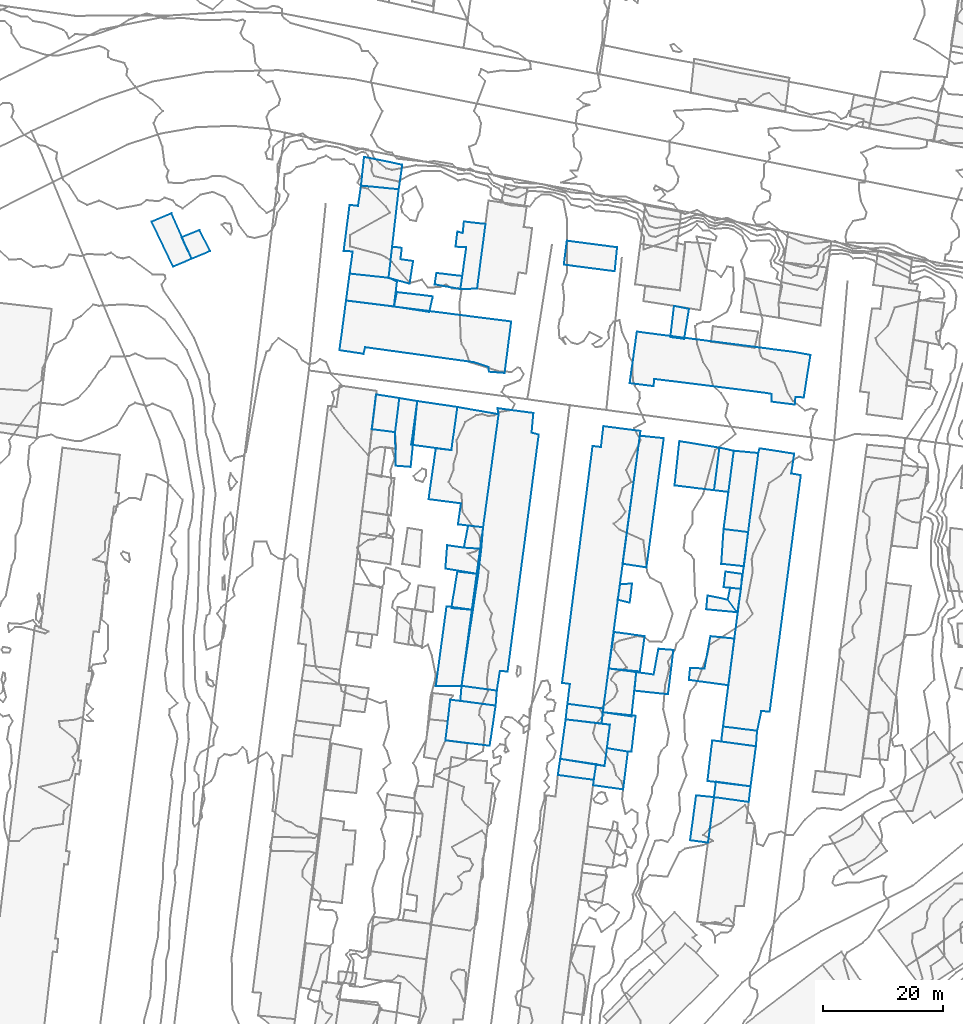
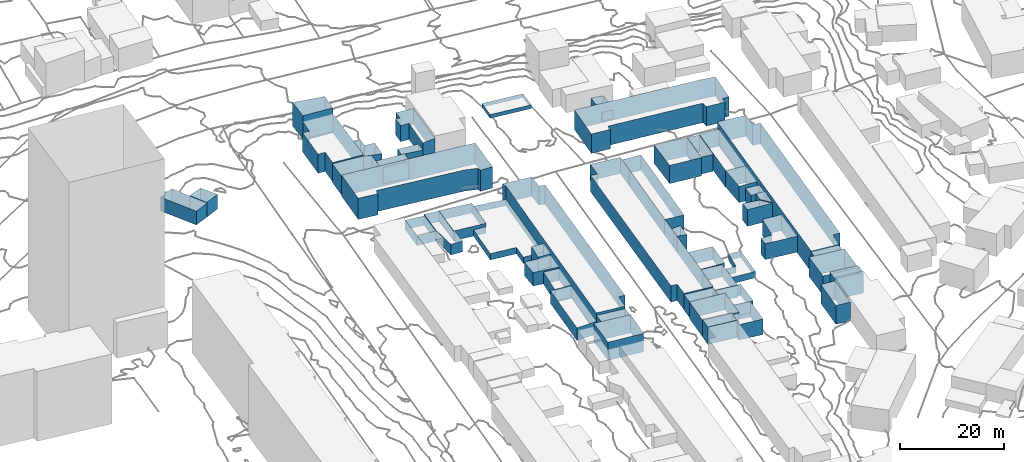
# Not in any storey, part 61 of 419: 48 walls.
"""IFC2X3 model written with IfcOpenShell, lengths in metres."""

import ifcopenshell
import ifcopenshell.guid

model = None  # the IFC model being written
_history = None  # IfcOwnerHistory: only IFC2X3 demands one
_inside = {}  # id of a spatial element -> (the spatial element, [elements in it])
_under = {}  # id of a project, library or spatial element -> (it, [spatial elements below it])
_declared = {}  # id of a project -> (the project, [libraries it declares])
_typed = {}  # id of a type object -> (the type object, [elements of that type])
_made_of = {}  # id of a material, layer set ... -> (it, [elements and type objects made of it])


def new_model(schema):
    """Start an empty IFC model of exactly this schema.

    Asked for "IFC4X3", IfcOpenShell would pick the latest addendum, in which some entities
    have other attributes; the version numbers below select the first issue.
    IFC2X3 requires an IfcOwnerHistory on every rooted entity: one is made here for all.
    """
    global model, _history
    if schema == "IFC4X3":
        model = ifcopenshell.file(schema_version=(4, 3, 0, 0))
    else:
        model = ifcopenshell.file(schema=schema)
    _inside.clear()
    _under.clear()
    _declared.clear()
    _typed.clear()
    _made_of.clear()
    _history = None
    if model.schema == "IFC2X3":
        org = make("IfcOrganization", Name="unknown")
        user = make(
            "IfcPersonAndOrganization",
            ThePerson=make("IfcPerson", FamilyName="unknown"),
            TheOrganization=org,
        )
        app = make(
            "IfcApplication",
            ApplicationDeveloper=org,
            Version="unknown",
            ApplicationFullName="unknown",
            ApplicationIdentifier="unknown",
        )
        _history = make(
            "IfcOwnerHistory",
            OwningUser=user,
            OwningApplication=app,
            ChangeAction="ADDED",
            CreationDate=0,
        )
    return model


def make(cls, **values):
    """One entity of the class cls with the attributes given. An attribute that is None is left unset."""
    return model.create_entity(
        cls, **{name: value for name, value in values.items() if value is not None}
    )


def rooted(cls, **values):
    """An entity with a GlobalId (a new one), such as an element, a storey or a relation."""
    return make(cls, GlobalId=ifcopenshell.guid.new(), OwnerHistory=_history, **values)


def si_unit(unit_type, name, prefix=None):
    """IfcSIUnit, for example si_unit("LENGTHUNIT", "METRE", prefix="MILLI")."""
    return make("IfcSIUnit", UnitType=unit_type, Prefix=prefix, Name=name)


def assignment(units):
    """IfcUnitAssignment: the units of a project."""
    return None if units is None else make("IfcUnitAssignment", Units=units)


def point(xyz):
    """IfcCartesianPoint."""
    return None if xyz is None else make("IfcCartesianPoint", Coordinates=xyz)


def direction(xyz):
    """IfcDirection."""
    return None if xyz is None else make("IfcDirection", DirectionRatios=xyz)


def frame(location, z_axis=None, x_axis=None):
    """IfcAxis2Placement3D, a coordinate frame: its origin and axes. An axis left out is left unset."""
    return make(
        "IfcAxis2Placement3D",
        Location=point(location),
        Axis=direction(z_axis),
        RefDirection=direction(x_axis),
    )


def origin_with_axes():
    """The frame at (0, 0, 0) with the z axis (0, 0, 1) and the x axis (1, 0, 0) written out."""
    return frame((0.0, 0.0, 0.0), z_axis=(0.0, 0.0, 1.0), x_axis=(1.0, 0.0, 0.0))


def place(relative_to, where):
    """IfcLocalPlacement: puts the frame where relative to a parent placement (None: the world)."""
    return make(
        "IfcLocalPlacement", PlacementRelTo=relative_to, RelativePlacement=where
    )


def context(
    kind, dimensions, precision=None, world=None, true_north=None, identifier=None
):
    """IfcGeometricRepresentationContext, for example the 3D "Model" context."""
    return make(
        "IfcGeometricRepresentationContext",
        ContextIdentifier=identifier,
        ContextType=kind,
        CoordinateSpaceDimension=dimensions,
        Precision=precision,
        WorldCoordinateSystem=world,
        TrueNorth=true_north,
    )


def subcontext(parent, identifier, kind, view, scale=None):
    """IfcGeometricRepresentationSubContext, for example "Body" below "Model"."""
    return make(
        "IfcGeometricRepresentationSubContext",
        ContextIdentifier=identifier,
        ContextType=kind,
        ParentContext=parent,
        TargetScale=scale,
        TargetView=view,
    )


def project(units=None, contexts=None):
    """IfcProject with its units and contexts."""
    return rooted(
        "IfcProject",
        Name="project",
        RepresentationContexts=contexts,
        UnitsInContext=assignment(units),
    )


def faces_of(points, faces, orient=None, outer=None):
    """IfcFace entities. A face is a list of loops; a loop is a list of indices into points, from 0.

    orient and outer hold one flag for each loop. By default every Orientation is true, the
    first loop of a face is its IfcFaceOuterBound and the others are IfcFaceBound.
    """
    made = []
    for i, loops in enumerate(faces):
        bounds = []
        for j, loop in enumerate(loops):
            is_outer = j == 0 if outer is None else outer[i][j]
            bounds.append(
                make(
                    "IfcFaceOuterBound" if is_outer else "IfcFaceBound",
                    Bound=make("IfcPolyLoop", Polygon=[points[k] for k in loop]),
                    Orientation=True if orient is None else orient[i][j],
                )
            )
        made.append(make("IfcFace", Bounds=bounds))
    return made


def faceted_brep(points, faces, orient=None, outer=None, voids=None):
    """IfcFacetedBrep: a solid bounded by flat faces; with voids (closed shells), ...WithVoids."""
    shared = [point(p) for p in points]
    hull = make("IfcClosedShell", CfsFaces=faces_of(shared, faces, orient, outer))
    if voids is None:
        return make("IfcFacetedBrep", Outer=hull)
    return make(
        "IfcFacetedBrepWithVoids",
        Outer=hull,
        Voids=[
            make(cls, CfsFaces=faces_of(shared, fs, o, b)) for cls, fs, o, b in voids
        ],
    )


def shape(context_of_items, identifier, shape_type, items):
    """IfcShapeRepresentation: the items that make up one representation, for example the "Body"."""
    return make(
        "IfcShapeRepresentation",
        ContextOfItems=context_of_items,
        RepresentationIdentifier=identifier,
        RepresentationType=shape_type,
        Items=items,
    )


def made_of(thing, what):
    """Note that an element or type object is made of a material, layer set ...; save() writes the relation."""
    if what is not None:
        _made_of.setdefault(what.id(), (what, []))[1].append(thing)
    return thing


def element(
    cls,
    number,
    at=None,
    inside=None,
    cuts=None,
    type_object=None,
    material=None,
    context=None,
    identifier="Body",
    shape_type=None,
    held_by="IfcProductDefinitionShape",
    body=None,
    shapes=None,
    **own,
):
    """One element of the class cls, such as IfcWall. Its Tag is "e" and its number.

    at: its placement. inside: the storey or other place that contains it. cuts: it is an
    opening in that element (IfcRelVoidsElement). A single representation is given by context,
    identifier, shape_type and body (its items); several are given by shapes. held_by: the class
    of the entity that holds the representations. save() writes the other relations.
    """
    e = rooted(cls, Tag="e%d" % number, ObjectPlacement=at, **own)
    if body is not None:
        shapes = [shape(context, identifier, shape_type, body)]
    if shapes is not None:
        e.Representation = make(held_by, Representations=shapes)
    if inside is not None:
        _inside.setdefault(inside.id(), (inside, []))[1].append(e)
    if cuts is not None:
        rooted(
            "IfcRelVoidsElement", RelatingBuildingElement=cuts, RelatedOpeningElement=e
        )
    if type_object is not None:
        _typed.setdefault(type_object.id(), (type_object, []))[1].append(e)
    return made_of(e, material)


def aggregate(whole, parts):
    """IfcRelAggregates: a whole, such as a stair, and the parts it consists of."""
    return rooted("IfcRelAggregates", RelatingObject=whole, RelatedObjects=parts)


def save(model, path):
    """Write the relations noted so far, then the file.

    IfcRelAggregates (storeys below a building ...), IfcRelContainedInSpatialStructure (elements
    in a storey), IfcRelDefinesByType, IfcRelAssociatesMaterial and IfcRelDeclares: one each for
    every whole, place, type object, material and project.
    """
    for whole, parts in _under.values():
        aggregate(whole, parts)
    for where, things in _inside.values():
        rooted(
            "IfcRelContainedInSpatialStructure",
            RelatedElements=things,
            RelatingStructure=where,
        )
    for kind, things in _typed.values():
        rooted("IfcRelDefinesByType", RelatedObjects=things, RelatingType=kind)
    for what, things in _made_of.values():
        rooted("IfcRelAssociatesMaterial", RelatedObjects=things, RelatingMaterial=what)
    for by, libraries in _declared.values():
        rooted("IfcRelDeclares", RelatingContext=by, RelatedDefinitions=libraries)
    model.write(path)


model = new_model("IFC2X3")

# Units and contexts
model_context = context("Model", 3, precision=1e-05, world=origin_with_axes())
body_context = subcontext(model_context, "Body", "Model", "MODEL_VIEW")
ifc_project = project(units=[si_unit("AREAUNIT", "SQUARE_METRE"), si_unit("LENGTHUNIT", "METRE")], contexts=[model_context])

# Walls
wall_1_placement = place(None, frame((536.0920204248, 752.4976909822, 39.0440010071), z_axis=(0.0, 0.0, 1.0), x_axis=(1.0, 0.0, 0.0)))
element("IfcWall", 1, at=wall_1_placement, Name="Mur 0", context=body_context, shape_type="Brep", body=[
    faceted_brep([(5.0, -4.6999999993, 2.6559989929), (4.4, -4.6999999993, 2.6559989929), (5.0, -4.6999999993, 0.0), (4.4, -4.6999999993, 0.0), (5.7, 1.3000000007, 2.6559989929), (5.7, 1.3000000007, 0.0), (0.2, 1.9000000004, 2.6559989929), (0.2, 1.9000000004, 0.0), (0.0, 0.0, 2.6559989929), (0.0, 0.0, 0.0), (1.4, -0.1999999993, 2.6559989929), (1.4, -0.1999999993, 0.0), (0.9, -4.0999999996, 2.6559989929), (0.9, -4.0999999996, 0.0)], [[[0, 1, 2]], [[2, 1, 3]], [[4, 0, 5]], [[5, 0, 2]], [[6, 4, 7]], [[7, 4, 5]], [[8, 6, 9]], [[9, 6, 7]], [[10, 8, 11]], [[11, 8, 9]], [[1, 12, 3]], [[3, 12, 13]], [[12, 10, 13]], [[13, 10, 11]]]),
])
wall_2_placement = place(None, frame((536.2920204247, 754.3976909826, 38.9300006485), z_axis=(0.0, 0.0, 1.0), x_axis=(1.0, 0.0, 0.0)))
element("IfcWall", 2, at=wall_2_placement, Name="Mur 0", context=body_context, shape_type="Brep", body=[
    faceted_brep([(5.6000000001, 6.7000000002, 2.8699993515), (4.8, -0.7000000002, 2.8699993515), (5.6000000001, 6.7000000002, 0.0), (4.8, -0.7000000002, 0.0), (1.0, 7.2999999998, 2.8699993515), (1.0, 7.2999999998, 0.0), (0.0, 0.0, 2.8699993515), (0.0, 0.0, 0.0)], [[[0, 1, 2]], [[2, 1, 3]], [[4, 0, 5]], [[5, 0, 2]], [[1, 6, 3]], [[3, 6, 7]], [[6, 4, 7]], [[7, 4, 5]]]),
])
wall_3_placement = place(None, frame((537.2920204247, 761.6976909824, 38.8383990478), z_axis=(0.0, 0.0, 1.0), x_axis=(1.0, 0.0, 0.0)))
element("IfcWall", 3, at=wall_3_placement, Name="Mur 0", context=body_context, shape_type="Brep", body=[
    faceted_brep([(5.2000000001, -0.5, 3.0616009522), (0.0, 0.0, 3.0616009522), (5.2000000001, -0.5, 0.0), (0.0, 0.0, 0.0), (6.0, 5.4000000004, 3.0616009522), (6.0, 5.4000000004, 0.0), (0.9, 6.1000000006, 3.0616009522), (0.9, 6.1000000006, 0.0)], [[[0, 1, 2]], [[2, 1, 3]], [[4, 0, 5]], [[5, 0, 2]], [[1, 6, 3]], [[3, 6, 7]], [[6, 4, 7]], [[7, 4, 5]]]),
])
wall_4_placement = place(None, frame((500.4920204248, 826.9976909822, 37.8899995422), z_axis=(0.0, 0.0, 1.0), x_axis=(1.0, 0.0, 0.0)))
element("IfcWall", 4, at=wall_4_placement, Name="Mur 0", context=body_context, shape_type="Brep", body=[
    faceted_brep([(3.5, -1.0, 3.8100004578), (0.0, 0.0, 3.8100004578), (3.5, -1.0, 0.0), (0.0, 0.0, 0.0), (4.1, 2.8000000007, 3.8100004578), (4.1, 2.8000000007, 0.0), (2.0, 3.1000000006, 3.8100004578), (2.0, 3.1000000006, 0.0), (2.2, 5.0, 3.8100004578), (2.2, 5.0, 0.0), (0.6, 5.2000000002, 3.8100004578), (0.6, 5.2000000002, 0.0)], [[[0, 1, 2]], [[2, 1, 3]], [[4, 0, 5]], [[5, 0, 2]], [[6, 4, 7]], [[7, 4, 5]], [[8, 6, 9]], [[9, 6, 7]], [[1, 10, 3]], [[3, 10, 11]], [[10, 8, 11]], [[11, 8, 9]]]),
])
wall_5_placement = place(None, frame((547.5920204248, 817.0976909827, 39.4159999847), z_axis=(0.0, 0.0, 1.0), x_axis=(1.0, 0.0, 0.0)))
element("IfcWall", 5, at=wall_5_placement, Name="Mur 0", context=body_context, shape_type="Brep", body=[
    faceted_brep([(2.3, -0.2999999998, 2.0840000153), (0.0, 0.0, 2.0840000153), (2.3, -0.2999999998, 0.0), (0.0, 0.0, 0.0), (3.1, 4.7000000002, 2.0840000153), (3.1, 4.7000000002, 0.0), (0.6, 5.2000000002, 2.0840000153), (0.6, 5.2000000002, 0.0)], [[[0, 1, 2]], [[2, 1, 3]], [[4, 0, 5]], [[5, 0, 2]], [[1, 6, 3]], [[3, 6, 7]], [[6, 4, 7]], [[7, 4, 5]]]),
])
wall_6_placement = place(None, frame((511.6920204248, 832.1976909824, 38.0406999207), z_axis=(0.0, 0.0, 1.0), x_axis=(1.0, 0.0, 0.0)))
element("IfcWall", 6, at=wall_6_placement, Name="Mur 0", context=body_context, shape_type="Brep", body=[
    faceted_brep([(1.4, 4.2000000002, 3.7593000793), (5.0, 3.7999999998, 3.7593000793), (1.4, 4.2000000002, 0.0), (5.0, 3.7999999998, 0.0), (1.2000000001, 2.2999999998, 3.7593000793), (1.2000000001, 2.2999999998, 0.0), (0.3, 2.5, 3.7593000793), (0.3, 2.5, 0.0), (0.0, 0.0, 3.7593000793), (0.0, 0.0, 0.0), (1.8, -0.0999999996, 3.7593000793), (1.8, -0.0999999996, 0.0), (0.8, -7.0999999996, 3.7593000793), (0.8, -7.0999999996, 0.0), (3.6, -7.0, 3.7593000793), (3.6, -7.0, 0.0)], [[[0, 1, 2]], [[2, 1, 3]], [[4, 0, 5]], [[5, 0, 2]], [[6, 4, 7]], [[7, 4, 5]], [[8, 6, 9]], [[9, 6, 7]], [[10, 8, 11]], [[11, 8, 9]], [[12, 10, 13]], [[13, 10, 11]], [[1, 14, 3]], [[3, 14, 15]], [[14, 12, 15]], [[15, 12, 13]]]),
])
wall_7_placement = place(None, frame((492.9920204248, 831.4976909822, 37.6191995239), z_axis=(0.0, 0.0, 1.0), x_axis=(1.0, 0.0, 0.0)))
element("IfcWall", 7, at=wall_7_placement, Name="Mur 0", context=body_context, shape_type="Brep", body=[
    faceted_brep([(9.2, 10.3000000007, 4.4808004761), (7.5, -4.5, 4.4808004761), (9.2, 10.3000000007, 0.0), (7.5, -4.5, 0.0), (2.9, 10.9000000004, 4.4808004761), (2.9, 10.9000000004, 0.0), (2.4, 7.5, 4.4808004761), (2.4, 7.5, 0.0), (1.0, 7.7000000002, 4.4808004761), (1.0, 7.7000000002, 0.0), (0.0, 0.0, 4.4808004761), (0.0, 0.0, 0.0), (1.5, -0.0999999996, 4.4808004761), (1.5, -0.0999999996, 0.0), (1.0, -3.7999999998, 4.4808004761), (1.0, -3.7999999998, 0.0)], [[[0, 1, 2]], [[2, 1, 3]], [[4, 0, 5]], [[5, 0, 2]], [[6, 4, 7]], [[7, 4, 5]], [[8, 6, 9]], [[9, 6, 7]], [[10, 8, 11]], [[11, 8, 9]], [[12, 10, 13]], [[13, 10, 11]], [[1, 14, 3]], [[3, 14, 15]], [[14, 12, 15]], [[15, 12, 13]]]),
])
wall_8_placement = place(None, frame((534.6920204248, 742.1976909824, 38.0832015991), z_axis=(0.0, 0.0, 1.0), x_axis=(1.0, 0.0, 0.0)))
element("IfcWall", 8, at=wall_8_placement, Name="Mur 0", context=body_context, shape_type="Brep", body=[
    faceted_brep([(0.0, 0.0, 3.6167984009), (0.1, 0.9000000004, 3.6167984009), (0.0, 0.0, 0.0), (0.1, 0.9000000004, 0.0), (5.0, -0.7000000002, 3.6167984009), (5.0, -0.7000000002, 0.0), (5.8, 5.6000000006, 3.6167984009), (5.8, 5.6000000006, 0.0), (2.3, 6.2000000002, 3.6167984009), (2.3, 6.2000000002, 0.0), (1.9, 3.2000000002, 3.6167984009), (1.9, 3.2000000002, 0.0), (0.5, 3.5, 3.6167984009), (0.5, 3.5, 0.0)], [[[0, 1, 2]], [[2, 1, 3]], [[4, 0, 5]], [[5, 0, 2]], [[6, 4, 7]], [[7, 4, 5]], [[8, 6, 9]], [[9, 6, 7]], [[10, 8, 11]], [[11, 8, 9]], [[1, 12, 3]], [[3, 12, 13]], [[12, 10, 13]], [[13, 10, 11]]]),
])
wall_9_placement = place(None, frame((553.7920204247, 742.8976909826, 41.4479988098), z_axis=(0.0, 0.0, 1.0), x_axis=(1.0, 0.0, 0.0)))
element("IfcWall", 9, at=wall_9_placement, Name="Mur 0", context=body_context, shape_type="Brep", body=[
    faceted_brep([(0.8, 6.7999999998, 4.5520011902), (8.1000000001, 5.7999999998, 4.5520011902), (0.8, 6.7999999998, 0.0), (8.1000000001, 5.7999999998, 0.0), (0.0, 0.0, 4.5520011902), (0.0, 0.0, 0.0), (7.2000000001, -0.9000000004, 4.5520011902), (7.2000000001, -0.9000000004, 0.0)], [[[0, 1, 2]], [[2, 1, 3]], [[4, 0, 5]], [[5, 0, 2]], [[1, 6, 3]], [[3, 6, 7]], [[6, 4, 7]], [[7, 4, 5]]]),
])
wall_10_placement = place(None, frame((550.8920204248, 732.9976909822, 41.685300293), z_axis=(0.0, 0.0, 1.0), x_axis=(1.0, 0.0, 0.0)))
element("IfcWall", 10, at=wall_10_placement, Name="Mur 0", context=body_context, shape_type="Brep", body=[
    faceted_brep([(1.0, 7.5, 4.414699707), (4.0, 7.2000000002, 4.414699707), (1.0, 7.5, 0.0), (4.0, 7.2000000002, 0.0), (0.0, 0.0, 4.414699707), (0.0, 0.0, 0.0), (3.0, -0.3999999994, 4.414699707), (3.0, -0.3999999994, 0.0)], [[[0, 1, 2]], [[2, 1, 3]], [[4, 0, 5]], [[5, 0, 2]], [[1, 6, 3]], [[3, 6, 7]], [[6, 4, 7]], [[7, 4, 5]]]),
])
wall_11_placement = place(None, frame((538.7920204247, 773.1976909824, 38.4532003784), z_axis=(0.0, 0.0, 1.0), x_axis=(1.0, 0.0, 0.0)))
element("IfcWall", 11, at=wall_11_placement, Name="Mur 0", context=body_context, shape_type="Brep", body=[
    faceted_brep([(0.0, 0.0, 3.7467996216), (0.4, 2.6000000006, 3.7467996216), (0.0, 0.0, 0.0), (0.4, 2.6000000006, 0.0), (2.0, -0.5, 3.7467996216), (2.0, -0.5, 0.0), (2.4, 2.7000000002, 3.7467996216), (2.4, 2.7000000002, 0.0)], [[[0, 1, 2]], [[2, 1, 3]], [[4, 0, 5]], [[5, 0, 2]], [[1, 6, 3]], [[3, 6, 7]], [[6, 4, 7]], [[7, 4, 5]]]),
])
wall_12_placement = place(None, frame((556.0920204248, 749.4976909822, 41.3992001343), z_axis=(0.0, 0.0, 1.0), x_axis=(1.0, 0.0, 0.0)))
element("IfcWall", 12, at=wall_12_placement, Name="Mur 0", context=body_context, shape_type="Brep", body=[
    faceted_brep([(0.3, 2.5, 3.8007998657), (6.0, 1.8000000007, 3.8007998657), (0.3, 2.5, 0.0), (6.0, 1.8000000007, 0.0), (0.0, 0.0, 3.8007998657), (0.0, 0.0, 0.0), (5.8, -0.7999999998, 3.8007998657), (5.8, -0.7999999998, 0.0)], [[[0, 1, 2]], [[2, 1, 3]], [[4, 0, 5]], [[5, 0, 2]], [[1, 6, 3]], [[3, 6, 7]], [[6, 4, 7]], [[7, 4, 5]]]),
])
wall_13_placement = place(None, frame((508.3920204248, 758.7976909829, 37.1160003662), z_axis=(0.0, 0.0, 1.0), x_axis=(1.0, 0.0, 0.0)))
element("IfcWall", 13, at=wall_13_placement, Name="Mur 0", context=body_context, shape_type="Brep", body=[
    faceted_brep([(6.2, 12.6999999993, 2.9839996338), (4.2999999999, 0.0, 2.9839996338), (6.2, 12.6999999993, 0.0), (4.2999999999, 0.0, 0.0), (1.7999999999, 13.2999999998, 2.9839996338), (1.7999999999, 13.2999999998, 0.0), (0.0, 0.0, 2.9839996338), (0.0, 0.0, 0.0)], [[[0, 1, 2]], [[2, 1, 3]], [[4, 0, 5]], [[5, 0, 2]], [[1, 6, 3]], [[3, 6, 7]], [[6, 4, 7]], [[7, 4, 5]]]),
])
wall_14_placement = place(None, frame((512.4920204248, 756.2976909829, 37.5744013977), z_axis=(0.0, 0.0, 1.0), x_axis=(1.0, 0.0, 0.0)))
element("IfcWall", 14, at=wall_14_placement, Name="Mur 0", context=body_context, shape_type="Brep", body=[
    faceted_brep([(0.0, 0.0, 3.9255986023), (0.2, 2.5, 3.9255986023), (0.0, 0.0, 0.0), (0.2, 2.5, 0.0), (5.9, -0.8000000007, 3.9255986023), (5.9, -0.8000000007, 0.0), (6.1, 1.6999999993, 3.9255986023), (6.1, 1.6999999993, 0.0)], [[[0, 1, 2]], [[2, 1, 3]], [[4, 0, 5]], [[5, 0, 2]], [[1, 6, 3]], [[3, 6, 7]], [[6, 4, 7]], [[7, 4, 5]]]),
])
wall_15_placement = place(None, frame((507.1920204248, 789.9976909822, 37.4983999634), z_axis=(0.0, 0.0, 1.0), x_axis=(1.0, 0.0, 0.0)))
element("IfcWall", 15, at=wall_15_placement, Name="Mur 0", context=body_context, shape_type="Brep", body=[
    faceted_brep([(3.8, 8.2000000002, 1.5016000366), (4.8, 15.4000000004, 1.5016000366), (3.8, 8.2000000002, 0.0), (4.8, 15.4000000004, 0.0), (1.2000000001, 8.5, 1.5016000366), (1.2000000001, 8.5, 0.0), (0.0, 0.0, 1.5016000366), (0.0, 0.0, 0.0), (5.4, -0.6999999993, 1.5016000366), (5.4, -0.6999999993, 0.0), (4.9, -4.1999999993, 1.5016000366), (4.9, -4.1999999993, 0.0), (9.1, -4.6999999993, 1.5016000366), (9.1, -4.6999999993, 0.0), (11.7000000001, 14.2000000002, 1.5016000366), (11.7000000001, 14.2000000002, 0.0)], [[[0, 1, 2]], [[2, 1, 3]], [[4, 0, 5]], [[5, 0, 2]], [[6, 4, 7]], [[7, 4, 5]], [[8, 6, 9]], [[9, 6, 7]], [[10, 8, 11]], [[11, 8, 9]], [[12, 10, 13]], [[13, 10, 11]], [[1, 14, 3]], [[3, 14, 15]], [[14, 12, 15]], [[15, 12, 13]]]),
])
wall_16_placement = place(None, frame((513.0920204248, 781.8976909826, 37.9384004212), z_axis=(0.0, 0.0, 1.0), x_axis=(1.0, 0.0, 0.0)))
element("IfcWall", 16, at=wall_16_placement, Name="Mur 0", context=body_context, shape_type="Brep", body=[
    faceted_brep([(0.0, 0.0, 3.0615995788), (0.7, 3.7000000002, 3.0615995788), (0.0, 0.0, 0.0), (0.7, 3.7000000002, 0.0), (2.9, -0.2000000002, 3.0615995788), (2.9, -0.2000000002, 0.0), (3.2, 3.4000000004, 3.0615995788), (3.2, 3.4000000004, 0.0)], [[[0, 1, 2]], [[2, 1, 3]], [[4, 0, 5]], [[5, 0, 2]], [[1, 6, 3]], [[3, 6, 7]], [[6, 4, 7]], [[7, 4, 5]]]),
])
wall_17_placement = place(None, frame((556.4920204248, 775.2976909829, 40.5619991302), z_axis=(0.0, 0.0, 1.0), x_axis=(1.0, 0.0, 0.0)))
element("IfcWall", 17, at=wall_17_placement, Name="Mur 0", context=body_context, shape_type="Brep", body=[
    faceted_brep([(0.2999999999, 2.5999999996, 3.7380008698), (3.1, 2.1999999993, 3.7380008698), (0.2999999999, 2.5999999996, 0.0), (3.1, 2.1999999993, 0.0), (0.0, 0.0, 3.7380008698), (0.0, 0.0, 0.0), (2.9, -0.3000000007, 3.7380008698), (2.9, -0.3000000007, 0.0)], [[[0, 1, 2]], [[2, 1, 3]], [[4, 0, 5]], [[5, 0, 2]], [[1, 6, 3]], [[3, 6, 7]], [[6, 4, 7]], [[7, 4, 5]]]),
])
wall_18_placement = place(None, frame((556.4920204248, 784.9976909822, 40.2458000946), z_axis=(0.0, 0.0, 1.0), x_axis=(1.0, 0.0, 0.0)))
element("IfcWall", 18, at=wall_18_placement, Name="Mur 0", context=body_context, shape_type="Brep", body=[
    faceted_brep([(0.0, 0.0, 3.9541999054), (1.7, 13.1000000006, 3.9541999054), (0.0, 0.0, 0.0), (1.7, 13.1000000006, 0.0), (4.1, -0.5, 3.9541999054), (4.1, -0.5, 0.0), (5.7999999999, 12.7000000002, 3.9541999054), (5.7999999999, 12.7000000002, 0.0)], [[[0, 1, 2]], [[2, 1, 3]], [[4, 0, 5]], [[5, 0, 2]], [[1, 6, 3]], [[3, 6, 7]], [[6, 4, 7]], [[7, 4, 5]]]),
])
wall_19_placement = place(None, frame((556.0920204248, 779.1976909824, 40.3780010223), z_axis=(0.0, 0.0, 1.0), x_axis=(1.0, 0.0, 0.0)))
element("IfcWall", 19, at=wall_19_placement, Name="Mur 0", context=body_context, shape_type="Brep", body=[
    faceted_brep([(0.0, 0.0, 3.8219989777), (0.4, 5.7999999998, 3.8219989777), (0.0, 0.0, 0.0), (0.4, 5.7999999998, 0.0), (3.8, -0.3999999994, 3.8219989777), (3.8, -0.3999999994, 0.0), (4.5, 5.2999999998, 3.8219989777), (4.5, 5.2999999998, 0.0)], [[[0, 1, 2]], [[2, 1, 3]], [[4, 0, 5]], [[5, 0, 2]], [[1, 6, 3]], [[3, 6, 7]], [[6, 4, 7]], [[7, 4, 5]]]),
])
wall_20_placement = place(None, frame((495.8920204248, 842.3976909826, 37.9790008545), z_axis=(0.0, 0.0, 1.0), x_axis=(1.0, 0.0, 0.0)))
element("IfcWall", 20, at=wall_20_placement, Name="Mur 0", context=body_context, shape_type="Brep", body=[
    faceted_brep([(0.0, 0.0, 5.5209991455), (0.5, 4.7999999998, 5.5209991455), (0.0, 0.0, 0.0), (0.5, 4.7999999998, 0.0), (6.2999999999, -0.5999999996, 5.5209991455), (6.2999999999, -0.5999999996, 0.0), (6.8999999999, 3.5, 5.5209991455), (6.8999999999, 3.5, 0.0)], [[[0, 1, 2]], [[2, 1, 3]], [[4, 0, 5]], [[5, 0, 2]], [[1, 6, 3]], [[3, 6, 7]], [[6, 4, 7]], [[7, 4, 5]]]),
])
wall_21_placement = place(None, frame((497.6920204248, 801.6976909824, 37.1106988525), z_axis=(0.0, 0.0, 1.0), x_axis=(1.0, 0.0, 0.0)))
element("IfcWall", 21, at=wall_21_placement, Name="Mur 0", context=body_context, shape_type="Brep", body=[
    faceted_brep([(0.0, 0.0, 2.1893011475), (0.7000000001, 5.7999999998, 2.1893011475), (0.0, 0.0, 0.0), (0.7000000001, 5.7999999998, 0.0), (3.9, -0.5, 2.1893011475), (3.9, -0.5, 0.0), (4.6, 5.2000000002, 2.1893011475), (4.6, 5.2000000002, 0.0)], [[[0, 1, 2]], [[2, 1, 3]], [[4, 0, 5]], [[5, 0, 2]], [[1, 6, 3]], [[3, 6, 7]], [[6, 4, 7]], [[7, 4, 5]]]),
])
wall_22_placement = place(None, frame((501.3920204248, 822.1976909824, 37.6935987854), z_axis=(0.0, 0.0, 1.0), x_axis=(1.0, 0.0, 0.0)))
element("IfcWall", 22, at=wall_22_placement, Name="Mur 0", context=body_context, shape_type="Brep", body=[
    faceted_brep([(5.8999999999, -0.8999999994, 3.9064012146), (0.0, 0.0, 3.9064012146), (5.8999999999, -0.8999999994, 0.0), (0.0, 0.0, 0.0), (6.5, 1.7000000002, 3.9064012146), (6.5, 1.7000000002, 0.0), (0.5, 2.4000000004, 3.9064012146), (0.5, 2.4000000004, 0.0)], [[[0, 1, 2]], [[2, 1, 3]], [[4, 0, 5]], [[5, 0, 2]], [[1, 6, 3]], [[3, 6, 7]], [[6, 4, 7]], [[7, 4, 5]]]),
])
wall_23_placement = place(None, frame((501.5920204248, 801.1976909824, 37.1959991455), z_axis=(0.0, 0.0, 1.0), x_axis=(1.0, 0.0, 0.0)))
element("IfcWall", 23, at=wall_23_placement, Name="Mur 0", context=body_context, shape_type="Brep", body=[
    faceted_brep([(0.0, 0.0, 2.5040008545), (0.7, 5.7000000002, 2.5040008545), (0.0, 0.0, 0.0), (0.7, 5.7000000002, 0.0), (0.1, -5.5999999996, 2.5040008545), (0.1, -5.5999999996, 0.0), (2.6, -5.7999999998, 2.5040008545), (2.6, -5.7999999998, 0.0), (3.7, 5.2000000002, 2.5040008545), (3.7, 5.2000000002, 0.0)], [[[0, 1, 2]], [[2, 1, 3]], [[4, 0, 5]], [[5, 0, 2]], [[6, 4, 7]], [[7, 4, 5]], [[1, 8, 3]], [[3, 8, 9]], [[8, 6, 9]], [[9, 6, 7]]]),
])
wall_24_placement = place(None, frame((539.5920204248, 779.1976909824, 38.5800003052), z_axis=(0.0, 0.0, 1.0), x_axis=(1.0, 0.0, 0.0)))
element("IfcWall", 24, at=wall_24_placement, Name="Mur 0", context=body_context, shape_type="Brep", body=[
    faceted_brep([(0.0, 0.0, 3.6199996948), (2.9, 21.4000000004, 3.6199996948), (0.0, 0.0, 0.0), (2.9, 21.4000000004, 0.0), (4.0, -0.5999999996, 3.6199996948), (4.0, -0.5999999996, 0.0), (6.9, 21.0, 3.6199996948), (6.9, 21.0, 0.0)], [[[0, 1, 2]], [[2, 1, 3]], [[4, 0, 5]], [[5, 0, 2]], [[1, 6, 3]], [[3, 6, 7]], [[6, 4, 7]], [[7, 4, 5]]]),
])
wall_25_placement = place(None, frame((554.8920204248, 740.1976909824, 41.7104003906), z_axis=(0.0, 0.0, 1.0), x_axis=(1.0, 0.0, 0.0)))
element("IfcWall", 25, at=wall_25_placement, Name="Mur 0", context=body_context, shape_type="Brep", body=[
    faceted_brep([(0.2999999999, 2.6000000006, 4.7895996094), (6.1, 1.7999999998, 4.7895996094), (0.2999999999, 2.6000000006, 0.0), (6.1, 1.7999999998, 0.0), (0.0, 0.0, 4.7895996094), (0.0, 0.0, 0.0), (5.7999999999, -0.7999999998, 4.7895996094), (5.7999999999, -0.7999999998, 0.0)], [[[0, 1, 2]], [[2, 1, 3]], [[4, 0, 5]], [[5, 0, 2]], [[1, 6, 3]], [[3, 6, 7]], [[6, 4, 7]], [[7, 4, 5]]]),
])
wall_26_placement = place(None, frame((512.6920204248, 758.7976909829, 37.5744013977), z_axis=(0.0, 0.0, 1.0), x_axis=(1.0, 0.0, 0.0)))
element("IfcWall", 26, at=wall_26_placement, Name="Mur 0", context=body_context, shape_type="Brep", body=[
    faceted_brep([(0.0, 0.0, 4.5255986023), (3.6, 26.5, 4.5255986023), (0.0, 0.0, 0.0), (3.6, 26.5, 0.0), (5.9, -0.8000000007, 4.5255986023), (5.9, -0.8000000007, 0.0), (6.4, 2.5, 4.5255986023), (6.4, 2.5, 0.0), (7.7000000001, 2.3999999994, 4.5255986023), (7.7000000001, 2.3999999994, 0.0), (12.9, 42.0, 4.5255986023), (12.9, 42.0, 0.0), (11.7000000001, 42.2999999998, 4.5255986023), (11.7000000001, 42.2999999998, 0.0), (12.0, 45.5999999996, 4.5255986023), (12.0, 45.5999999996, 0.0), (6.0, 46.3999999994, 4.5255986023), (6.0, 46.3999999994, 0.0), (6.2000000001, 45.3999999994, 4.5255986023), (6.2000000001, 45.3999999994, 0.0)], [[[0, 1, 2]], [[2, 1, 3]], [[4, 0, 5]], [[5, 0, 2]], [[6, 4, 7]], [[7, 4, 5]], [[8, 6, 9]], [[9, 6, 7]], [[10, 8, 11]], [[11, 8, 9]], [[12, 10, 13]], [[13, 10, 11]], [[14, 12, 15]], [[15, 12, 13]], [[16, 14, 17]], [[17, 14, 15]], [[1, 18, 3]], [[3, 18, 19]], [[18, 16, 19]], [[19, 16, 17]]]),
])
wall_27_placement = place(None, frame((530.0920204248, 753.1976909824, 38.3579986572), z_axis=(0.0, 0.0, 1.0), x_axis=(1.0, 0.0, 0.0)))
element("IfcWall", 27, at=wall_27_placement, Name="Mur 0", context=body_context, shape_type="Brep", body=[
    faceted_brep([(6.0, -0.7000000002, 3.6420013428), (0.0, 0.0, 3.6420013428), (6.0, -0.7000000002, 0.0), (0.0, 0.0, 0.0), (6.3, 1.7999999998, 3.6420013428), (6.3, 1.7999999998, 0.0), (0.3, 2.6000000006, 3.6420013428), (0.3, 2.6000000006, 0.0)], [[[0, 1, 2]], [[2, 1, 3]], [[4, 0, 5]], [[5, 0, 2]], [[1, 6, 3]], [[3, 6, 7]], [[6, 4, 7]], [[7, 4, 5]]]),
])
wall_28_placement = place(None, frame((529.1920204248, 746.5976909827, 38.0880004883), z_axis=(0.0, 0.0, 1.0), x_axis=(1.0, 0.0, 0.0)))
element("IfcWall", 28, at=wall_28_placement, Name="Mur 0", context=body_context, shape_type="Brep", body=[
    faceted_brep([(7.4, -1.2000000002, 3.9119995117), (0.0, 0.0, 3.9119995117), (7.4, -1.2000000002, 0.0), (0.0, 0.0, 0.0), (8.3, 5.7000000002, 3.9119995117), (8.3, 5.7000000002, 0.0), (0.9, 6.5999999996, 3.9119995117), (0.9, 6.5999999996, 0.0)], [[[0, 1, 2]], [[2, 1, 3]], [[4, 0, 5]], [[5, 0, 2]], [[1, 6, 3]], [[3, 6, 7]], [[6, 4, 7]], [[7, 4, 5]]]),
])
wall_29_placement = place(None, frame((557.1920204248, 773.1976909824, 40.6828004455), z_axis=(0.0, 0.0, 1.0), x_axis=(1.0, 0.0, 0.0)))
element("IfcWall", 29, at=wall_29_placement, Name="Mur 0", context=body_context, shape_type="Brep", body=[
    faceted_brep([(2.2000000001, 1.7999999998, 3.7171995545), (1.6, -2.0999999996, 3.7171995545), (2.2000000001, 1.7999999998, 0.0), (1.6, -2.0999999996, 0.0), (0.4, 2.0, 3.7171995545), (0.4, 2.0, 0.0), (0.0, 0.0, 3.7171995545), (0.0, 0.0, 0.0)], [[[0, 1, 2]], [[2, 1, 3]], [[4, 0, 5]], [[5, 0, 2]], [[1, 6, 3]], [[3, 6, 7]], [[6, 4, 7]], [[7, 4, 5]]]),
])
wall_30_placement = place(None, frame((510.9920204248, 771.7976909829, 37.4740007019), z_axis=(0.0, 0.0, 1.0), x_axis=(1.0, 0.0, 0.0)))
element("IfcWall", 30, at=wall_30_placement, Name="Mur 0", context=body_context, shape_type="Brep", body=[
    faceted_brep([(4.5, 5.6999999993, 2.8259992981), (3.6, -0.3000000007, 2.8259992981), (4.5, 5.6999999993, 0.0), (3.6, -0.3000000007, 0.0), (1.0, 6.0999999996, 2.8259992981), (1.0, 6.0999999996, 0.0), (0.0, 0.0, 2.8259992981), (0.0, 0.0, 0.0)], [[[0, 1, 2]], [[2, 1, 3]], [[4, 0, 5]], [[5, 0, 2]], [[1, 6, 3]], [[3, 6, 7]], [[6, 4, 7]], [[7, 4, 5]]]),
])
wall_31_placement = place(None, frame((553.5920204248, 771.5976909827, 40.2979999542), z_axis=(0.0, 0.0, 1.0), x_axis=(1.0, 0.0, 0.0)))
element("IfcWall", 31, at=wall_31_placement, Name="Mur 0", context=body_context, shape_type="Brep", body=[
    faceted_brep([(3.6, 1.5999999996, 3.9020000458), (5.2, -0.5, 3.9020000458), (3.6, 1.5999999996, 0.0), (5.2, -0.5, 0.0), (0.2, 2.2999999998, 3.9020000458), (0.2, 2.2999999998, 0.0), (0.0, 0.0, 3.9020000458), (0.0, 0.0, 0.0)], [[[0, 1, 2]], [[2, 1, 3]], [[4, 0, 5]], [[5, 0, 2]], [[1, 6, 3]], [[3, 6, 7]], [[6, 4, 7]], [[7, 4, 5]]]),
])
wall_32_placement = place(None, frame((508.1920204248, 825.8976909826, 37.9969993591), z_axis=(0.0, 0.0, 1.0), x_axis=(1.0, 0.0, 0.0)))
element("IfcWall", 32, at=wall_32_placement, Name="Mur 0", context=body_context, shape_type="Brep", body=[
    faceted_brep([(4.6, 1.4000000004, 2.1030006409), (4.3, -0.7999999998, 2.1030006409), (4.6, 1.4000000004, 0.0), (4.3, -0.7999999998, 0.0), (0.3, 1.9000000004, 2.1030006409), (0.3, 1.9000000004, 0.0), (0.0, 0.0, 2.1030006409), (0.0, 0.0, 0.0)], [[[0, 1, 2]], [[2, 1, 3]], [[4, 0, 5]], [[5, 0, 2]], [[1, 6, 3]], [[3, 6, 7]], [[6, 4, 7]], [[7, 4, 5]]]),
])
wall_33_placement = place(None, frame((509.9920204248, 778.3976909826, 37.4320007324), z_axis=(0.0, 0.0, 1.0), x_axis=(1.0, 0.0, 0.0)))
element("IfcWall", 33, at=wall_33_placement, Name="Mur 0", context=body_context, shape_type="Brep", body=[
    faceted_brep([(0.2999999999, 3.9000000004, 3.1679992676), (3.1, 3.5, 3.1679992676), (0.2999999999, 3.9000000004, 0.0), (3.1, 3.5, 0.0), (0.0, 0.0, 3.1679992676), (0.0, 0.0, 0.0), (5.5, -0.9000000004, 3.1679992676), (5.5, -0.9000000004, 0.0), (6.0, 3.2999999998, 3.1679992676), (6.0, 3.2999999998, 0.0)], [[[0, 1, 2]], [[2, 1, 3]], [[4, 0, 5]], [[5, 0, 2]], [[6, 4, 7]], [[7, 4, 5]], [[1, 8, 3]], [[3, 8, 9]], [[8, 6, 9]], [[9, 6, 7]]]),
])
wall_34_placement = place(None, frame((529.7920204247, 829.1976909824, 39.0116003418), z_axis=(0.0, 0.0, 1.0), x_axis=(1.0, 0.0, 0.0)))
element("IfcWall", 34, at=wall_34_placement, Name="Mur 0", context=body_context, shape_type="Brep", body=[
    faceted_brep([(0.5, 4.0, 0.8883996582), (8.9, 2.9000000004, 0.8883996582), (0.5, 4.0, 0.0), (8.9, 2.9000000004, 0.0), (0.0, 0.0, 0.8883996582), (0.0, 0.0, 0.0), (8.5, -1.0999999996, 0.8883996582), (8.5, -1.0999999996, 0.0)], [[[0, 1, 2]], [[2, 1, 3]], [[4, 0, 5]], [[5, 0, 2]], [[1, 6, 3]], [[3, 6, 7]], [[6, 4, 7]], [[7, 4, 5]]]),
])
wall_35_placement = place(None, frame((509.9920204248, 749.6976909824, 37.4170002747), z_axis=(0.0, 0.0, 1.0), x_axis=(1.0, 0.0, 0.0)))
element("IfcWall", 35, at=wall_35_placement, Name="Mur 0", context=body_context, shape_type="Brep", body=[
    faceted_brep([(0.0, 0.0, 4.2829997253), (0.4, 3.2000000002, 4.2829997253), (0.0, 0.0, 0.0), (0.4, 3.2000000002, 0.0), (7.4, -0.8999999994, 4.2829997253), (7.4, -0.8999999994, 0.0), (8.4, 5.7999999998, 4.2829997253), (8.4, 5.7999999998, 0.0), (0.7999999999, 6.7999999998, 4.2829997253), (0.7999999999, 6.7999999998, 0.0)], [[[0, 1, 2]], [[2, 1, 3]], [[4, 0, 5]], [[5, 0, 2]], [[6, 4, 7]], [[7, 4, 5]], [[1, 8, 3]], [[3, 8, 9]], [[8, 6, 9]], [[9, 6, 7]]]),
])
wall_36_placement = place(None, frame((554.8920204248, 791.4976909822, 40.0251986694), z_axis=(0.0, 0.0, 1.0), x_axis=(1.0, 0.0, 0.0)))
element("IfcWall", 36, at=wall_36_placement, Name="Mur 0", context=body_context, shape_type="Brep", body=[
    faceted_brep([(0.0, 0.0, 3.9748013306), (0.8999999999, 7.1000000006, 3.9748013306), (0.0, 0.0, 0.0), (0.8999999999, 7.1000000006, 0.0), (2.3999999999, -0.2999999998, 3.9748013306), (2.3999999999, -0.2999999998, 0.0), (3.2999999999, 6.6000000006, 3.9748013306), (3.2999999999, 6.6000000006, 0.0)], [[[0, 1, 2]], [[2, 1, 3]], [[4, 0, 5]], [[5, 0, 2]], [[1, 6, 3]], [[3, 6, 7]], [[6, 4, 7]], [[7, 4, 5]]]),
])
wall_37_placement = place(None, frame((493.3920204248, 823.1976909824, 37.3968002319), z_axis=(0.0, 0.0, 1.0), x_axis=(1.0, 0.0, 0.0)))
element("IfcWall", 37, at=wall_37_placement, Name="Mur 0", context=body_context, shape_type="Brep", body=[
    faceted_brep([(8.0, -1.0, 4.4031997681), (0.0, 0.0, 4.4031997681), (8.0, -1.0, 0.0), (0.0, 0.0, 0.0), (8.5, 3.1000000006, 4.4031997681), (8.5, 3.1000000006, 0.0), (7.1, 3.7999999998, 4.4031997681), (7.1, 3.7999999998, 0.0), (0.6, 4.5, 4.4031997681), (0.6, 4.5, 0.0)], [[[0, 1, 2]], [[2, 1, 3]], [[4, 0, 5]], [[5, 0, 2]], [[6, 4, 7]], [[7, 4, 5]], [[1, 8, 3]], [[3, 8, 9]], [[8, 6, 9]], [[9, 6, 7]]]),
])
wall_38_placement = place(None, frame((529.4920204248, 759.2976909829, 38.4549007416), z_axis=(0.0, 0.0, 1.0), x_axis=(1.0, 0.0, 0.0)))
element("IfcWall", 38, at=wall_38_placement, Name="Mur 0", context=body_context, shape_type="Brep", body=[
    faceted_brep([(6.9, -4.3000000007, 3.8450992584), (0.9, -3.5, 3.8450992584), (6.9, -4.3000000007, 0.0), (0.9, -3.5, 0.0), (13.1, 42.0999999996, 3.8450992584), (13.1, 42.0999999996, 0.0), (6.9, 42.8999999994, 3.8450992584), (6.9, 42.8999999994, 0.0), (6.5, 39.3999999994, 3.8450992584), (6.5, 39.3999999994, 0.0), (5.1, 39.5999999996, 3.8450992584), (5.1, 39.5999999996, 0.0), (0.0, 0.0, 3.8450992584), (0.0, 0.0, 0.0), (1.2999999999, -0.2000000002, 3.8450992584), (1.2999999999, -0.2000000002, 0.0)], [[[0, 1, 2]], [[2, 1, 3]], [[4, 0, 5]], [[5, 0, 2]], [[6, 4, 7]], [[7, 4, 5]], [[8, 6, 9]], [[9, 6, 7]], [[10, 8, 11]], [[11, 8, 9]], [[12, 10, 13]], [[13, 10, 11]], [[1, 14, 3]], [[3, 14, 15]], [[14, 12, 15]], [[15, 12, 13]]]),
])
wall_39_placement = place(None, frame((556.3920204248, 751.9976909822, 40.5050003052), z_axis=(0.0, 0.0, 1.0), x_axis=(1.0, 0.0, 0.0)))
element("IfcWall", 39, at=wall_39_placement, Name="Mur 0", context=body_context, shape_type="Brep", body=[
    faceted_brep([(0.0, 0.0, 4.8949996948), (5.8999999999, 45.7000000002, 4.8949996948), (0.0, 0.0, 0.0), (5.8999999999, 45.7000000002, 0.0), (5.7, -0.6999999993, 4.8949996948), (5.7, -0.6999999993, 0.0), (6.3999999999, 2.6000000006, 4.8949996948), (6.3999999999, 2.6000000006, 0.0), (7.7999999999, 2.5, 4.8949996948), (7.7999999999, 2.5, 0.0), (13.0, 42.0, 4.8949996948), (13.0, 42.0, 0.0), (11.3999999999, 42.3000000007, 4.8949996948), (11.3999999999, 42.3000000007, 0.0), (11.8999999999, 45.6000000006, 4.8949996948), (11.8999999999, 45.6000000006, 0.0), (6.1, 46.5, 4.8949996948), (6.1, 46.5, 0.0)], [[[0, 1, 2]], [[2, 1, 3]], [[4, 0, 5]], [[5, 0, 2]], [[6, 4, 7]], [[7, 4, 5]], [[8, 6, 9]], [[9, 6, 7]], [[10, 8, 11]], [[11, 8, 9]], [[12, 10, 13]], [[13, 10, 11]], [[14, 12, 15]], [[15, 12, 13]], [[1, 16, 3]], [[3, 16, 17]], [[16, 14, 17]], [[17, 14, 15]]]),
])
wall_40_placement = place(None, frame((504.2920204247, 799.0976909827, 37.4920009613), z_axis=(0.0, 0.0, 1.0), x_axis=(1.0, 0.0, 0.0)))
element("IfcWall", 40, at=wall_40_placement, Name="Mur 0", context=body_context, shape_type="Brep", body=[
    faceted_brep([(0.0, 0.0, 2.3079990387), (1.0, 7.2999999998, 2.3079990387), (0.0, 0.0, 0.0), (1.0, 7.2999999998, 0.0), (6.7000000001, -0.9000000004, 2.3079990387), (6.7000000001, -0.9000000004, 0.0), (7.7000000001, 6.2999999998, 2.3079990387), (7.7000000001, 6.2999999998, 0.0)], [[[0, 1, 2]], [[2, 1, 3]], [[4, 0, 5]], [[5, 0, 2]], [[1, 6, 3]], [[3, 6, 7]], [[6, 4, 7]], [[7, 4, 5]]]),
])
wall_41_placement = place(None, frame((492.2920204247, 814.8976909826, 37.1345001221), z_axis=(0.0, 0.0, 1.0), x_axis=(1.0, 0.0, 0.0)))
element("IfcWall", 41, at=wall_41_placement, Name="Mur 0", context=body_context, shape_type="Brep", body=[
    faceted_brep([(24.9, -2.7999999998, 4.9654998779), (22.4, -2.0, 4.9654998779), (24.9, -2.7999999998, 0.0), (22.4, -2.0, 0.0), (25.0, -3.5999999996, 4.9654998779), (25.0, -3.5999999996, 0.0), (27.6000000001, -3.7999999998, 4.9654998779), (27.6000000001, -3.7999999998, 0.0), (28.7000000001, 4.7999999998, 4.9654998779), (28.7000000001, 4.7999999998, 0.0), (1.1000000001, 8.2999999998, 4.9654998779), (1.1000000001, 8.2999999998, 0.0), (0.0, 0.0, 4.9654998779), (0.0, 0.0, 0.0), (4.0, -0.5999999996, 4.9654998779), (4.0, -0.5999999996, 0.0), (4.3, 0.5, 4.9654998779), (4.3, 0.5, 0.0)], [[[0, 1, 2]], [[2, 1, 3]], [[4, 0, 5]], [[5, 0, 2]], [[6, 4, 7]], [[7, 4, 5]], [[8, 6, 9]], [[9, 6, 7]], [[10, 8, 11]], [[11, 8, 9]], [[12, 10, 13]], [[13, 10, 11]], [[14, 12, 15]], [[15, 12, 13]], [[1, 16, 3]], [[3, 16, 17]], [[16, 14, 17]], [[17, 14, 15]]]),
])
wall_42_placement = place(None, frame((460.8920204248, 836.3976909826, 37.0680015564), z_axis=(0.0, 0.0, 1.0), x_axis=(1.0, 0.0, 0.0)))
element("IfcWall", 42, at=wall_42_placement, Name="Mur 0", context=body_context, shape_type="Brep", body=[
    faceted_brep([(3.2999999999, 1.4000000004, 3.2319984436), (6.7, -6.2000000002, 3.2319984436), (3.2999999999, 1.4000000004, 0.0), (6.7, -6.2000000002, 0.0), (0.0, 0.0, 3.2319984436), (0.0, 0.0, 0.0), (3.6, -7.5, 3.2319984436), (3.6, -7.5, 0.0)], [[[0, 1, 2]], [[2, 1, 3]], [[4, 0, 5]], [[5, 0, 2]], [[1, 6, 3]], [[3, 6, 7]], [[6, 4, 7]], [[7, 4, 5]]]),
])
wall_43_placement = place(None, frame((540.7920204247, 809.3976909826, 38.9419998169), z_axis=(0.0, 0.0, 1.0), x_axis=(1.0, 0.0, 0.0)))
element("IfcWall", 43, at=wall_43_placement, Name="Mur 0", context=body_context, shape_type="Brep", body=[
    faceted_brep([(1.2000000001, 8.5999999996, 4.5580001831), (27.5, 5.2000000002, 4.5580001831), (1.2000000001, 8.5999999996, 0.0), (27.5, 5.2000000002, 0.0), (0.0, 0.0, 4.5580001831), (0.0, 0.0, 0.0), (4.0, -0.5, 4.5580001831), (4.0, -0.5, 0.0), (4.1000000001, 0.7000000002, 4.5580001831), (4.1000000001, 0.7000000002, 0.0), (22.5, -1.5999999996, 4.5580001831), (22.5, -1.5999999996, 0.0), (23.7000000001, -1.7999999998, 4.5580001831), (23.7000000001, -1.7999999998, 0.0), (23.7000000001, -3.0999999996, 4.5580001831), (23.7000000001, -3.0999999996, 0.0), (27.6000000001, -3.5999999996, 4.5580001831), (27.6000000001, -3.5999999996, 0.0), (27.7000000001, -2.2999999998, 4.5580001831), (27.7000000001, -2.2999999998, 0.0), (29.1000000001, -2.4000000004, 4.5580001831), (29.1000000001, -2.4000000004, 0.0), (30.2000000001, 4.7000000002, 4.5580001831), (30.2000000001, 4.7000000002, 0.0)], [[[0, 1, 2]], [[2, 1, 3]], [[4, 0, 5]], [[5, 0, 2]], [[6, 4, 7]], [[7, 4, 5]], [[8, 6, 9]], [[9, 6, 7]], [[10, 8, 11]], [[11, 8, 9]], [[12, 10, 13]], [[13, 10, 11]], [[14, 12, 15]], [[15, 12, 13]], [[16, 14, 17]], [[17, 14, 15]], [[18, 16, 19]], [[19, 16, 17]], [[20, 18, 21]], [[21, 18, 19]], [[1, 22, 3]], [[3, 22, 23]], [[22, 20, 23]], [[23, 20, 21]]]),
])
wall_44_placement = place(None, frame((541.5920204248, 757.9976909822, 39.1079994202), z_axis=(0.0, 0.0, 1.0), x_axis=(1.0, 0.0, 0.0)))
element("IfcWall", 44, at=wall_44_placement, Name="Mur 0", context=body_context, shape_type="Brep", body=[
    faceted_brep([(0.0, 0.0, 1.4920005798), (0.3, 3.1000000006, 1.4920005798), (0.0, 0.0, 0.0), (0.3, 3.1000000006, 0.0), (5.6, -0.5999999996, 1.4920005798), (5.6, -0.5999999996, 0.0), (6.5, 6.8000000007, 1.4920005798), (6.5, 6.8000000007, 0.0), (4.0, 7.0, 1.4920005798), (4.0, 7.0, 0.0), (3.2, 2.7000000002, 1.4920005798), (3.2, 2.7000000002, 0.0)], [[[0, 1, 2]], [[2, 1, 3]], [[4, 0, 5]], [[5, 0, 2]], [[6, 4, 7]], [[7, 4, 5]], [[8, 6, 9]], [[9, 6, 7]], [[1, 10, 3]], [[3, 10, 11]], [[10, 8, 11]], [[11, 8, 9]]]),
])
wall_45_placement = place(None, frame((528.7920204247, 743.8976909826, 38.0880004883), z_axis=(0.0, 0.0, 1.0), x_axis=(1.0, 0.0, 0.0)))
element("IfcWall", 45, at=wall_45_placement, Name="Mur 0", context=body_context, shape_type="Brep", body=[
    faceted_brep([(6.0, -0.7999999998, 4.1119995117), (0.0, 0.0, 4.1119995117), (6.0, -0.7999999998, 0.0), (0.0, 0.0, 0.0), (6.4, 1.7999999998, 4.1119995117), (6.4, 1.7999999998, 0.0), (0.4, 2.7000000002, 4.1119995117), (0.4, 2.7000000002, 0.0)], [[[0, 1, 2]], [[2, 1, 3]], [[4, 0, 5]], [[5, 0, 2]], [[1, 6, 3]], [[3, 6, 7]], [[6, 4, 7]], [[7, 4, 5]]]),
])
wall_46_placement = place(None, frame((550.6920204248, 759.7976909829, 40.672599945), z_axis=(0.0, 0.0, 1.0), x_axis=(1.0, 0.0, 0.0)))
element("IfcWall", 46, at=wall_46_placement, Name="Mur 0", context=body_context, shape_type="Brep", body=[
    faceted_brep([(7.6, 6.8999999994, 3.727400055), (6.6, -0.9000000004, 3.727400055), (7.6, 6.8999999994, 0.0), (6.6, -0.9000000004, 0.0), (3.6, 7.2999999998, 3.727400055), (3.6, 7.2999999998, 0.0), (2.6, 1.8999999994, 3.727400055), (2.6, 1.8999999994, 0.0), (0.2000000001, 2.0, 3.727400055), (0.2000000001, 2.0, 0.0), (0.0, 0.0, 3.727400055), (0.0, 0.0, 0.0)], [[[0, 1, 2]], [[2, 1, 3]], [[4, 0, 5]], [[5, 0, 2]], [[6, 4, 7]], [[7, 4, 5]], [[8, 6, 9]], [[9, 6, 7]], [[1, 10, 3]], [[3, 10, 11]], [[10, 8, 11]], [[11, 8, 9]]]),
])
wall_47_placement = place(None, frame((548.2920204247, 792.2976909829, 39.6029994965), z_axis=(0.0, 0.0, 1.0), x_axis=(1.0, 0.0, 0.0)))
element("IfcWall", 47, at=wall_47_placement, Name="Mur 0", context=body_context, shape_type="Brep", body=[
    faceted_brep([(0.8, 7.3999999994, 4.2970005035), (7.5, 6.2999999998, 4.2970005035), (0.8, 7.3999999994, 0.0), (7.5, 6.2999999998, 0.0), (0.0, 0.0, 4.2970005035), (0.0, 0.0, 0.0), (6.6000000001, -0.8000000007, 4.2970005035), (6.6000000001, -0.8000000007, 0.0)], [[[0, 1, 2]], [[2, 1, 3]], [[4, 0, 5]], [[5, 0, 2]], [[1, 6, 3]], [[3, 6, 7]], [[6, 4, 7]], [[7, 4, 5]]]),
])
wall_48_placement = place(None, frame((465.8920204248, 833.7976909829, 37.0680015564), z_axis=(0.0, 0.0, 1.0), x_axis=(1.0, 0.0, 0.0)))
element("IfcWall", 48, at=wall_48_placement, Name="Mur 0", context=body_context, shape_type="Brep", body=[
    faceted_brep([(4.7999999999, -2.3000000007, 3.4319984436), (1.7, -3.6000000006, 3.4319984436), (4.7999999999, -2.3000000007, 0.0), (1.7, -3.6000000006, 0.0), (3.0, 1.1999999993, 3.4319984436), (3.0, 1.1999999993, 0.0), (0.0, 0.0, 3.4319984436), (0.0, 0.0, 0.0)], [[[0, 1, 2]], [[2, 1, 3]], [[4, 0, 5]], [[5, 0, 2]], [[1, 6, 3]], [[3, 6, 7]], [[6, 4, 7]], [[7, 4, 5]]]),
])

save(model, "model.ifc")
